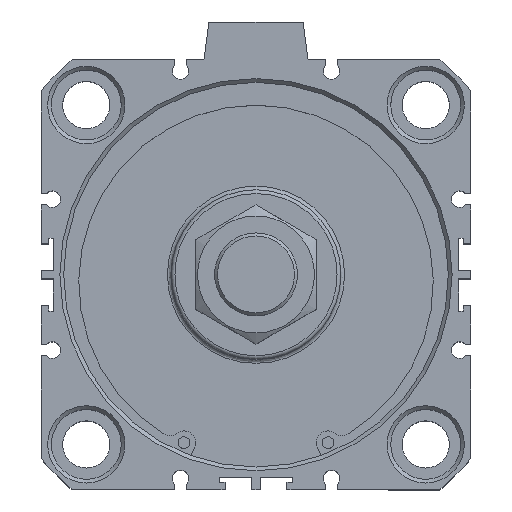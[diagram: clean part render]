
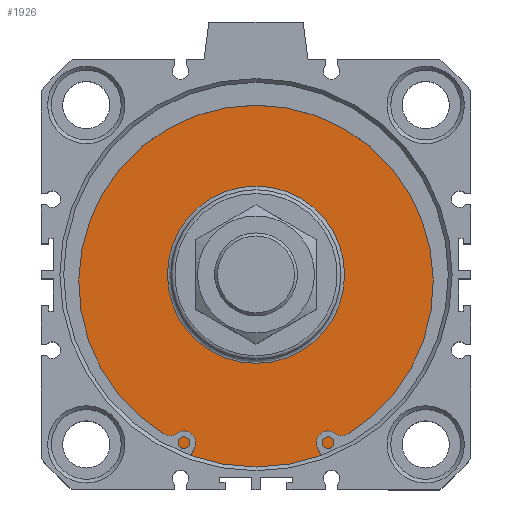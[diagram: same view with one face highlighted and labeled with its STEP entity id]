
A CAD part, top view. The second image highlights one B-rep face of the part: STEP entity #1926.
In plain terms, the highlighted planar face has unit normal (0, 0, 1).
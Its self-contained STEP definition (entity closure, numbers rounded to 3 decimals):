
#1875=CARTESIAN_POINT('',(-3.11,25.175,47.6));
#1876=VERTEX_POINT('',#1875);
#1877=CARTESIAN_POINT('',(-3.11,1.675,47.6));
#1878=DIRECTION('',(0.0,0.0,1.0));
#1879=DIRECTION('',(0.0,-1.0,0.0));
#1880=AXIS2_PLACEMENT_3D('',#1877,#1878,#1879);
#1881=CIRCLE('',#1880,23.5);
#1882=EDGE_CURVE('',#1876,#1876,#1881,.T.);
#1907=CARTESIAN_POINT('',(-3.11,38.425,47.6));
#1908=DIRECTION('',(0.0,0.0,1.0));
#1909=DIRECTION('',(1.0,0.0,0.0));
#1910=AXIS2_PLACEMENT_3D('',#1907,#1908,#1909);
#1911=PLANE('',#1910);
#1912=CARTESIAN_POINT('',(-3.11,52.675,47.6));
#1913=VERTEX_POINT('',#1912);
#1914=CARTESIAN_POINT('',(-3.11,1.675,47.6));
#1915=DIRECTION('',(0.0,0.0,-1.0));
#1916=DIRECTION('',(0.0,1.0,0.0));
#1917=AXIS2_PLACEMENT_3D('',#1914,#1915,#1916);
#1918=CIRCLE('',#1917,51.);
#1919=EDGE_CURVE('',#1913,#1913,#1918,.T.);
#1920=ORIENTED_EDGE('',*,*,#1919,.F.);
#1921=EDGE_LOOP('',(#1920));
#1922=FACE_OUTER_BOUND('',#1921,.T.);
#1923=ORIENTED_EDGE('',*,*,#1882,.F.);
#1924=EDGE_LOOP('',(#1923));
#1925=FACE_BOUND('',#1924,.T.);
#1926=ADVANCED_FACE('',(#1922,#1925),#1911,.T.);
